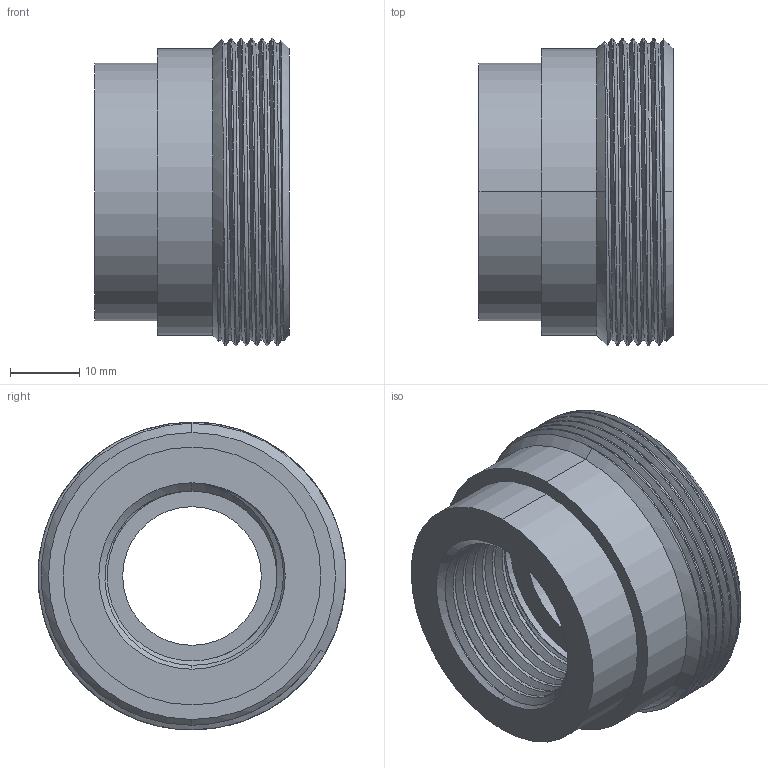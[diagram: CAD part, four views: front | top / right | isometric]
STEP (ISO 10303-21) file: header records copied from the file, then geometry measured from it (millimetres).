
FILE_DESCRIPTION (( 'STEP AP203' ), '1' );
FILE_NAME ('3D-M2037P_20 3-4_174251030.STEP', '2024-09-07T15:07:07', ( '' ), ( '' ), 'SwSTEP 2.0', 'SolidWorks 2024', '' );
FILE_SCHEMA (( 'CONFIG_CONTROL_DESIGN' ));
Length unit declared in the file: millimetre
Products named in the file (1): 3D-M2037P_20 3-4_174251030
Bounding box: 28 x 44.42 x 44.42 mm (x, y, z)
Volume: 21656.1 mm3; surface area: 9688.4 mm2
Topology: 1 solids, 1 shells, 64 faces, 162 edges, 105 vertices
Faces by surface type: cylinder 37, cone 11, plane 8, bspline 8
Entity records: 7105 total; most frequent: CARTESIAN_POINT 5683, ORIENTED_EDGE 324, DIRECTION 231, EDGE_CURVE 162, VERTEX_POINT 105, AXIS2_PLACEMENT_3D 92, EDGE_LOOP 71, FACE_OUTER_BOUND 64
